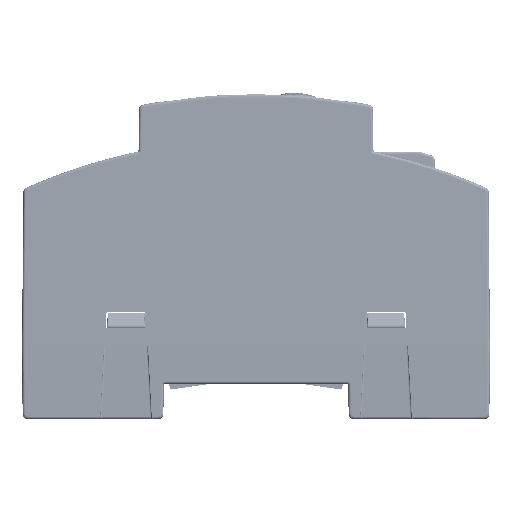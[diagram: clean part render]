
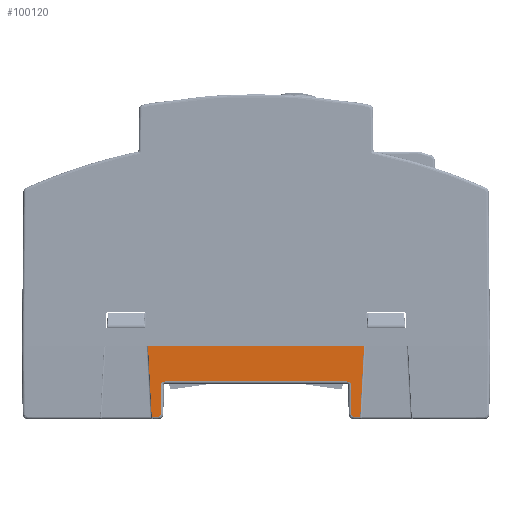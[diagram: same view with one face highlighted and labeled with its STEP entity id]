
A CAD part, left-side view. The second image highlights one B-rep face of the part: STEP entity #100120.
In plain terms, the highlighted planar face has unit normal (-1, 0, -0.009) as drawn and (0, -0.009, 1) by its records, which use the part's own axes.
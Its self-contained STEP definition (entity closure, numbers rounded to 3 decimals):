
#3729=B_SPLINE_CURVE_WITH_KNOTS('',3,(#155024,#155025,#155026,#155027,#155028,
#155029),.UNSPECIFIED.,.F.,.F.,(4,1,1,4),(-0.781,-0.521,
-0.26,0.),.UNSPECIFIED.);
#3730=B_SPLINE_CURVE_WITH_KNOTS('',3,(#155033,#155034,#155035,#155036,#155037,
#155038),.UNSPECIFIED.,.F.,.F.,(4,1,1,4),(0.,0.364,0.729,
1.093),.UNSPECIFIED.);
#3731=B_SPLINE_CURVE_WITH_KNOTS('',3,(#155042,#155043,#155044,#155045,#155046,
#155047),.UNSPECIFIED.,.F.,.F.,(4,1,1,4),(-2.198,-1.834,
-1.47,-1.105),.UNSPECIFIED.);
#3732=B_SPLINE_CURVE_WITH_KNOTS('',3,(#155050,#155051,#155052,#155053,#155054,
#155055),.UNSPECIFIED.,.F.,.F.,(4,1,1,4),(-2.351,-2.091,
-1.831,-1.57),.UNSPECIFIED.);
#13614=FACE_OUTER_BOUND('',#19137,.T.);
#19137=EDGE_LOOP('',(#71887,#71888,#71889,#71890,#71891,#71892,#71893,#71894,
#71895,#71896,#71897,#71898));
#25396=LINE('',#154346,#34280);
#25480=LINE('',#154589,#34364);
#25484=LINE('',#154606,#34368);
#25563=LINE('',#154997,#34447);
#25569=LINE('',#155022,#34453);
#25570=LINE('',#155031,#34454);
#25571=LINE('',#155040,#34455);
#25572=LINE('',#155049,#34456);
#34280=VECTOR('',#117493,1.);
#34364=VECTOR('',#117727,1.);
#34368=VECTOR('',#117743,1.);
#34447=VECTOR('',#117960,1.);
#34453=VECTOR('',#117976,1.);
#34454=VECTOR('',#117977,1.);
#34455=VECTOR('',#117978,1.);
#34456=VECTOR('',#117979,1.);
#43314=VERTEX_POINT('',#154344);
#43315=VERTEX_POINT('',#154345);
#43397=VERTEX_POINT('',#154583);
#43399=VERTEX_POINT('',#154587);
#43404=VERTEX_POINT('',#154600);
#43406=VERTEX_POINT('',#154604);
#43490=VERTEX_POINT('',#155023);
#43491=VERTEX_POINT('',#155030);
#43492=VERTEX_POINT('',#155032);
#43493=VERTEX_POINT('',#155039);
#43494=VERTEX_POINT('',#155041);
#43495=VERTEX_POINT('',#155048);
#53836=EDGE_CURVE('',#43314,#43315,#25396,.T.);
#53962=EDGE_CURVE('',#43399,#43397,#25480,.T.);
#53970=EDGE_CURVE('',#43404,#43406,#25484,.T.);
#54107=EDGE_CURVE('',#43315,#43399,#25563,.T.);
#54115=EDGE_CURVE('',#43314,#43404,#25569,.T.);
#54116=EDGE_CURVE('',#43490,#43406,#3729,.T.);
#54117=EDGE_CURVE('',#43491,#43490,#25570,.T.);
#54118=EDGE_CURVE('',#43492,#43491,#3730,.T.);
#54119=EDGE_CURVE('',#43493,#43492,#25571,.T.);
#54120=EDGE_CURVE('',#43493,#43494,#3731,.T.);
#54121=EDGE_CURVE('',#43495,#43494,#25572,.T.);
#54122=EDGE_CURVE('',#43495,#43397,#3732,.T.);
#71887=ORIENTED_EDGE('',*,*,#54115,.T.);
#71888=ORIENTED_EDGE('',*,*,#53970,.T.);
#71889=ORIENTED_EDGE('',*,*,#54116,.F.);
#71890=ORIENTED_EDGE('',*,*,#54117,.F.);
#71891=ORIENTED_EDGE('',*,*,#54118,.F.);
#71892=ORIENTED_EDGE('',*,*,#54119,.F.);
#71893=ORIENTED_EDGE('',*,*,#54120,.T.);
#71894=ORIENTED_EDGE('',*,*,#54121,.F.);
#71895=ORIENTED_EDGE('',*,*,#54122,.T.);
#71896=ORIENTED_EDGE('',*,*,#53962,.F.);
#71897=ORIENTED_EDGE('',*,*,#54107,.F.);
#71898=ORIENTED_EDGE('',*,*,#53836,.F.);
#97011=PLANE('',#106614);
#100120=ADVANCED_FACE('',(#13614),#97011,.T.);
#106614=AXIS2_PLACEMENT_3D('',#155021,#117974,#117975);
#117493=DIRECTION('',(1.,0.,0.));
#117727=DIRECTION('',(-1.,0.,0.));
#117743=DIRECTION('',(1.,0.,0.));
#117960=DIRECTION('',(-0.052,-0.999,-0.009));
#117974=DIRECTION('center_axis',(0.,-0.009,
1.));
#117975=DIRECTION('ref_axis',(0.,-1.,-0.009));
#117976=DIRECTION('',(0.052,-0.999,-0.009));
#117977=DIRECTION('',(-0.009,-1.,-0.009));
#117978=DIRECTION('',(-1.,0.,0.));
#117979=DIRECTION('',(-0.009,1.,0.009));
#154344=CARTESIAN_POINT('',(-20.76,0.,35.748));
#154345=CARTESIAN_POINT('',(20.76,0.,35.748));
#154346=CARTESIAN_POINT('',(-20.76,0.,35.748));
#154583=CARTESIAN_POINT('',(18.8,-13.504,35.63));
#154587=CARTESIAN_POINT('',(20.052,-13.504,35.63));
#154589=CARTESIAN_POINT('',(20.052,-13.504,35.63));
#154600=CARTESIAN_POINT('',(-20.052,-13.504,35.63));
#154604=CARTESIAN_POINT('',(-18.8,-13.504,35.63));
#154606=CARTESIAN_POINT('',(-20.052,-13.504,35.63));
#154997=CARTESIAN_POINT('',(20.76,0.,35.748));
#155021=CARTESIAN_POINT('Origin',(-20.771,0.011,35.748));
#155022=CARTESIAN_POINT('',(-20.76,0.,35.748));
#155023=CARTESIAN_POINT('',(-18.3,-13.009,35.634));
#155024=CARTESIAN_POINT('Ctrl Pts',(-18.3,-13.009,35.634));
#155025=CARTESIAN_POINT('Ctrl Pts',(-18.301,-13.096,35.634));
#155026=CARTESIAN_POINT('Ctrl Pts',(-18.349,-13.269,35.632));
#155027=CARTESIAN_POINT('Ctrl Pts',(-18.54,-13.458,35.63));
#155028=CARTESIAN_POINT('Ctrl Pts',(-18.713,-13.504,35.63));
#155029=CARTESIAN_POINT('Ctrl Pts',(-18.8,-13.504,35.63));
#155030=CARTESIAN_POINT('',(-18.252,-7.448,35.683));
#155031=CARTESIAN_POINT('',(-18.252,-7.448,35.683));
#155032=CARTESIAN_POINT('',(-17.552,-6.754,35.689));
#155033=CARTESIAN_POINT('Ctrl Pts',(-17.552,-6.754,35.689));
#155034=CARTESIAN_POINT('Ctrl Pts',(-17.673,-6.754,35.689));
#155035=CARTESIAN_POINT('Ctrl Pts',(-17.916,-6.819,35.688));
#155036=CARTESIAN_POINT('Ctrl Pts',(-18.184,-7.085,35.686));
#155037=CARTESIAN_POINT('Ctrl Pts',(-18.251,-7.327,35.684));
#155038=CARTESIAN_POINT('Ctrl Pts',(-18.252,-7.448,35.683));
#155039=CARTESIAN_POINT('',(17.552,-6.754,35.689));
#155040=CARTESIAN_POINT('',(17.552,-6.754,35.689));
#155041=CARTESIAN_POINT('',(18.252,-7.448,35.683));
#155042=CARTESIAN_POINT('Ctrl Pts',(17.552,-6.754,35.689));
#155043=CARTESIAN_POINT('Ctrl Pts',(17.673,-6.754,35.689));
#155044=CARTESIAN_POINT('Ctrl Pts',(17.916,-6.819,35.688));
#155045=CARTESIAN_POINT('Ctrl Pts',(18.184,-7.085,35.686));
#155046=CARTESIAN_POINT('Ctrl Pts',(18.251,-7.327,35.684));
#155047=CARTESIAN_POINT('Ctrl Pts',(18.252,-7.448,35.683));
#155048=CARTESIAN_POINT('',(18.3,-13.009,35.634));
#155049=CARTESIAN_POINT('',(18.3,-13.009,35.634));
#155050=CARTESIAN_POINT('Ctrl Pts',(18.3,-13.009,35.634));
#155051=CARTESIAN_POINT('Ctrl Pts',(18.301,-13.096,35.634));
#155052=CARTESIAN_POINT('Ctrl Pts',(18.349,-13.269,35.632));
#155053=CARTESIAN_POINT('Ctrl Pts',(18.54,-13.458,35.63));
#155054=CARTESIAN_POINT('Ctrl Pts',(18.713,-13.504,35.63));
#155055=CARTESIAN_POINT('Ctrl Pts',(18.8,-13.504,35.63));
